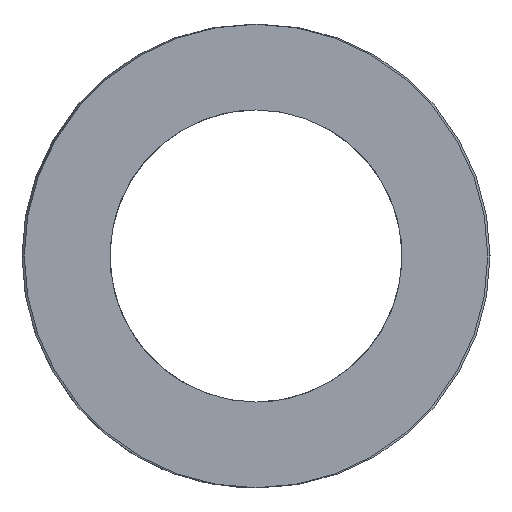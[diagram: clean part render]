
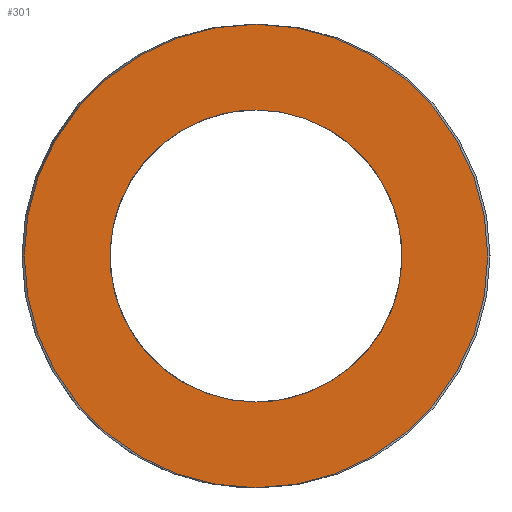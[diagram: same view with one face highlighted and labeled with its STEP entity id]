
A CAD part, left-side view. The second image highlights one B-rep face of the part: STEP entity #301.
In plain terms, the highlighted planar face has unit normal (-1, 0, 0).
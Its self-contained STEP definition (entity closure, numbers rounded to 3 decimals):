
#63=CARTESIAN_POINT('Vertex',(0.,31.1,0.)) ;
#77=CARTESIAN_POINT('Vertex',(0.,-31.1,0.)) ;
#80=CARTESIAN_POINT('Axis2P3D Location',(0.,0.,0.)) ;
#97=CARTESIAN_POINT('Axis2P3D Location',(0.,0.,0.)) ;
#232=CARTESIAN_POINT('Axis2P3D Location',(0.,15.55,0.)) ;
#242=CARTESIAN_POINT('Control Point',(0.,0.,-19.6)) ;
#243=CARTESIAN_POINT('Control Point',(0.,1.952,-19.6)) ;
#244=CARTESIAN_POINT('Control Point',(0.,3.904,-19.357)) ;
#245=CARTESIAN_POINT('Control Point',(0.,5.816,-18.871)) ;
#246=CARTESIAN_POINT('Control Point',(0.,9.478,-17.433)) ;
#247=CARTESIAN_POINT('Control Point',(0.,12.675,-15.142)) ;
#248=CARTESIAN_POINT('Control Point',(0.,14.123,-13.802)) ;
#249=CARTESIAN_POINT('Control Point',(0.,16.653,-10.789)) ;
#250=CARTESIAN_POINT('Control Point',(0.,18.368,-7.249)) ;
#251=CARTESIAN_POINT('Control Point',(0.,19.,-5.38)) ;
#252=CARTESIAN_POINT('Control Point',(0.,19.784,-1.525)) ;
#253=CARTESIAN_POINT('Control Point',(0.,19.6,2.405)) ;
#254=CARTESIAN_POINT('Control Point',(0.,19.262,4.348)) ;
#255=CARTESIAN_POINT('Control Point',(0.,18.11,8.11)) ;
#256=CARTESIAN_POINT('Control Point',(0.,16.071,11.474)) ;
#257=CARTESIAN_POINT('Control Point',(0.,14.846,13.02)) ;
#258=CARTESIAN_POINT('Control Point',(0.,12.037,15.775)) ;
#259=CARTESIAN_POINT('Control Point',(0.,8.639,17.757)) ;
#260=CARTESIAN_POINT('Control Point',(0.,6.824,18.53)) ;
#261=CARTESIAN_POINT('Control Point',(0.,4.349,19.236)) ;
#262=CARTESIAN_POINT('Control Point',(0.,1.809,19.53)) ;
#263=CARTESIAN_POINT('Control Point',(0.,1.206,19.577)) ;
#264=CARTESIAN_POINT('Control Point',(0.,0.603,19.6)) ;
#265=CARTESIAN_POINT('Control Point',(0.,0.,19.6)) ;
#266=CARTESIAN_POINT('Vertex',(0.,0.,-19.6)) ;
#268=CARTESIAN_POINT('Vertex',(0.,0.,19.6)) ;
#272=CARTESIAN_POINT('Control Point',(0.,0.,19.6)) ;
#273=CARTESIAN_POINT('Control Point',(0.,-1.952,19.6)) ;
#274=CARTESIAN_POINT('Control Point',(0.,-3.904,19.357)) ;
#275=CARTESIAN_POINT('Control Point',(0.,-5.816,18.871)) ;
#276=CARTESIAN_POINT('Control Point',(0.,-9.478,17.433)) ;
#277=CARTESIAN_POINT('Control Point',(0.,-12.675,15.142)) ;
#278=CARTESIAN_POINT('Control Point',(0.,-14.123,13.802)) ;
#279=CARTESIAN_POINT('Control Point',(0.,-16.653,10.789)) ;
#280=CARTESIAN_POINT('Control Point',(0.,-18.368,7.249)) ;
#281=CARTESIAN_POINT('Control Point',(0.,-19.,5.38)) ;
#282=CARTESIAN_POINT('Control Point',(0.,-19.784,1.525)) ;
#283=CARTESIAN_POINT('Control Point',(0.,-19.6,-2.405)) ;
#284=CARTESIAN_POINT('Control Point',(0.,-19.262,-4.348)) ;
#285=CARTESIAN_POINT('Control Point',(0.,-18.11,-8.11)) ;
#286=CARTESIAN_POINT('Control Point',(0.,-16.071,-11.474)) ;
#287=CARTESIAN_POINT('Control Point',(0.,-14.846,-13.02)) ;
#288=CARTESIAN_POINT('Control Point',(0.,-12.037,-15.775)) ;
#289=CARTESIAN_POINT('Control Point',(0.,-8.639,-17.757)) ;
#290=CARTESIAN_POINT('Control Point',(0.,-6.824,-18.53)) ;
#291=CARTESIAN_POINT('Control Point',(0.,-4.349,-19.236)) ;
#292=CARTESIAN_POINT('Control Point',(0.,-1.809,-19.53)) ;
#293=CARTESIAN_POINT('Control Point',(0.,-1.206,-19.577)) ;
#294=CARTESIAN_POINT('Control Point',(0.,-0.603,-19.6)) ;
#295=CARTESIAN_POINT('Control Point',(0.,0.,-19.6)) ;
#81=DIRECTION('Axis2P3D Direction',(1.,-0.,0.)) ;
#98=DIRECTION('Axis2P3D Direction',(1.,-0.,0.)) ;
#233=DIRECTION('Axis2P3D Direction',(-1.,0.,0.)) ;
#234=DIRECTION('Axis2P3D XDirection',(0.,1.,0.)) ;
#82=AXIS2_PLACEMENT_3D('Circle Axis2P3D',#80,#81,$) ;
#99=AXIS2_PLACEMENT_3D('Circle Axis2P3D',#97,#98,$) ;
#235=AXIS2_PLACEMENT_3D('Plane Axis2P3D',#232,#233,#234) ;
#238=ORIENTED_EDGE('',*,*,#84,.T.) ;
#239=ORIENTED_EDGE('',*,*,#101,.T.) ;
#298=ORIENTED_EDGE('',*,*,#270,.T.) ;
#299=ORIENTED_EDGE('',*,*,#296,.T.) ;
#300=FACE_BOUND('',#297,.T.) ;
#301=ADVANCED_FACE('392-B63-254',(#240,#300),#236,.T.) ;
#241=B_SPLINE_CURVE_WITH_KNOTS('',5,(#242,#243,#244,#245,#246,#247,#248,#249,#250,#251,#252,#253,#254,#255,#256,#257,#258,#259,#260,#261,#262,#263,#264,#265),.UNSPECIFIED.,.F.,.U.,(6,3,3,3,3,3,3,6),(0.,13.802,27.605,41.407,55.21,69.012,82.815,87.077),.UNSPECIFIED.) ;
#271=B_SPLINE_CURVE_WITH_KNOTS('',5,(#272,#273,#274,#275,#276,#277,#278,#279,#280,#281,#282,#283,#284,#285,#286,#287,#288,#289,#290,#291,#292,#293,#294,#295),.UNSPECIFIED.,.F.,.U.,(6,3,3,3,3,3,3,6),(0.,13.802,27.605,41.407,55.21,69.012,82.815,87.077),.UNSPECIFIED.) ;
#83=CIRCLE('generated circle',#82,31.1) ;
#100=CIRCLE('generated circle',#99,31.1) ;
#84=EDGE_CURVE('',#64,#78,#83,.F.) ;
#101=EDGE_CURVE('',#78,#64,#100,.F.) ;
#270=EDGE_CURVE('',#267,#269,#241,.T.) ;
#296=EDGE_CURVE('',#269,#267,#271,.T.) ;
#237=EDGE_LOOP('',(#238,#239)) ;
#297=EDGE_LOOP('',(#298,#299)) ;
#240=FACE_OUTER_BOUND('',#237,.T.) ;
#236=PLANE('Plane',#235) ;
#64=VERTEX_POINT('',#63) ;
#78=VERTEX_POINT('',#77) ;
#267=VERTEX_POINT('',#266) ;
#269=VERTEX_POINT('',#268) ;
